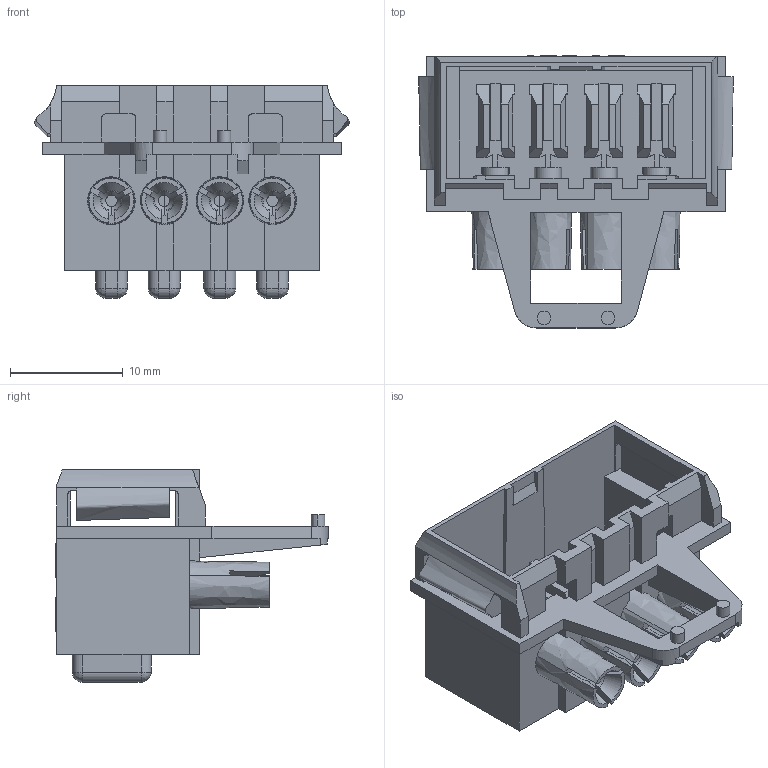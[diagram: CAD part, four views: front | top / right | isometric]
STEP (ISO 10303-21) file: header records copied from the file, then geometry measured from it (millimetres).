
FILE_DESCRIPTION((' '),'1');
FILE_NAME('00TYK0FY0E.stp','2014-01-22 T14:14:22',(''),(''),'STEP Interface 2013.192 by CT CoreTechnologie','3D_Evolution2013.192 by CT CoreTechnologie','');
FILE_SCHEMA(('AP203_CONFIGURATION_CONTROLLED_3D_DESIGN_OF_MECHANICAL_PARTS_AND_ASSEMBLIES_MIM_LF'));
Length unit declared in the file: millimetre
Products named in the file (1): 00TYK0FY0E
Bounding box: 27.92 x 24.15 x 18.85 mm (x, y, z)
Volume: 2358.9 mm3; surface area: 5130.6 mm2
Topology: 1 solids, 1 shells, 607 faces, 1726 edges, 1136 vertices
Faces by surface type: plane 437, bspline 92, cylinder 78
Entity records: 25617 total; most frequent: CARTESIAN_POINT 5062, ORIENTED_EDGE 3452, DIRECTION 3015, EDGE_CURVE 1726, VECTOR 1381, LINE 1381, VERTEX_POINT 1136, AXIS2_PLACEMENT_3D 817
